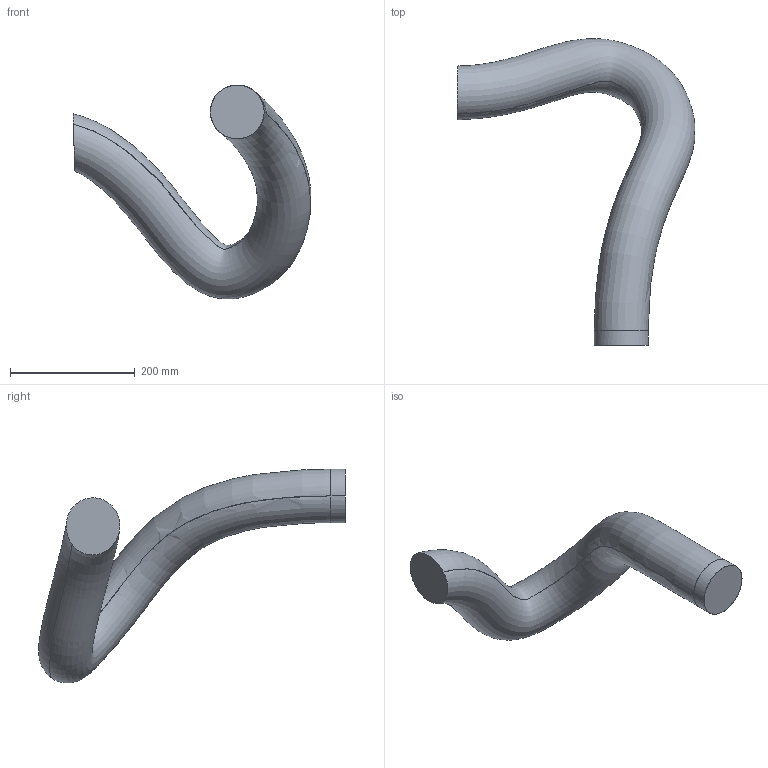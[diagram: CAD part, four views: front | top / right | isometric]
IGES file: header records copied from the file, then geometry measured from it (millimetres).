
Start section: SolidWorks IGES file using analytic representation for surfaces
Global section: file name: C:\Users\SEJAOLS6\OneDrive - ABB\Documents\SAP\7710\7710_Lightweight_models\IRB7710-LID-MH_280kg-350_OC_01_SW_J\IRB7710-LID-MH_280kg-350_OC_01_IGES_J\IRB77X0_All-350_OC_00_LINK05_CABLE.igs; native system: SolidWorks 2024; preprocessor: SolidWorks 2024; author: SEJAOLS6; date: 260126.160030; units: millimetre
Bounding box: 380.79 x 491.52 x 342.66 mm (x, y, z)
Surface area: 262774.7 mm2 (no closed solid volume)
Topology: 0 solids, 0 shells, 6 faces, 183 edges, 183 vertices
Faces by surface type: bspline 4, revolution 2
